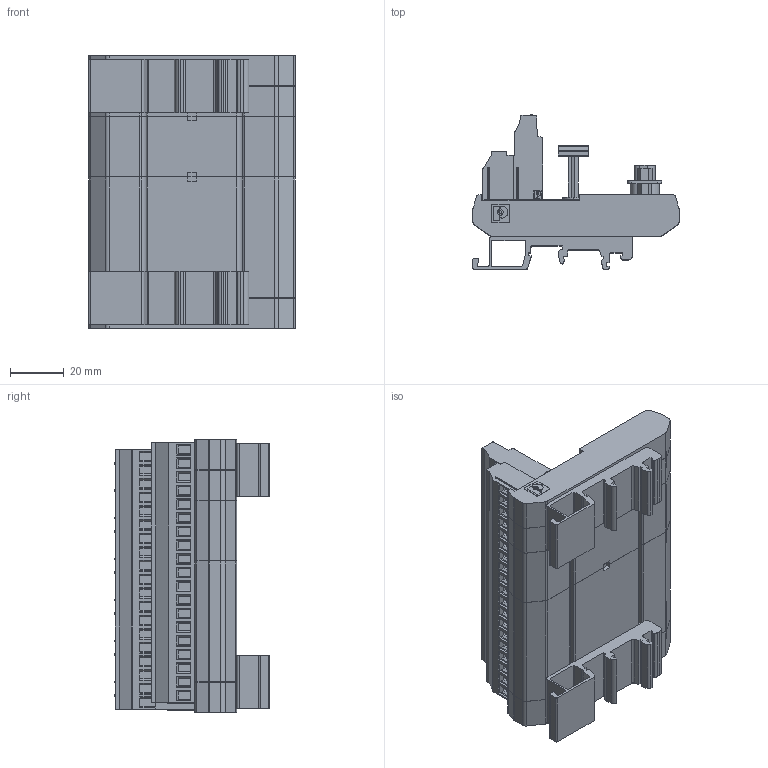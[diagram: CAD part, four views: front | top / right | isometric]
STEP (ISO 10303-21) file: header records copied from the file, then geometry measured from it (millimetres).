
FILE_DESCRIPTION((''),'2;1');
FILE_NAME('CU_CB-37FH','2008-12-03T',('lma'),(''),'PRO/ENGINEER BY PARAMETRIC TECHNOLOGY CORPORATION, 2006300','PRO/ENGINEER BY PARAMETRIC TECHNOLOGY CORPORATION, 2006300','');
FILE_SCHEMA(('CONFIG_CONTROL_DESIGN'));
Products named in the file (1): CU_CB-37FH
Bounding box: 77 x 57.6 x 101.3 mm (x, y, z)
Volume: 137620.1 mm3; surface area: 68039.5 mm2
Topology: 2 solids, 4 shells, 2658 faces, 7036 edges, 4636 vertices
Faces by surface type: plane 1755, cylinder 801, cone 90, sphere 12
Entity records: 82469 total; most frequent: CARTESIAN_POINT 14511, DIRECTION 14128, ORIENTED_EDGE 14040, EDGE_CURVE 7020, VECTOR 5144, LINE 5144, VERTEX_POINT 4636, AXIS2_PLACEMENT_3D 4492
